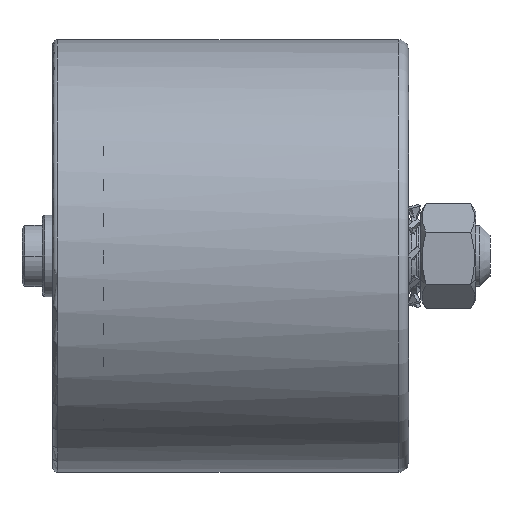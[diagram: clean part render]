
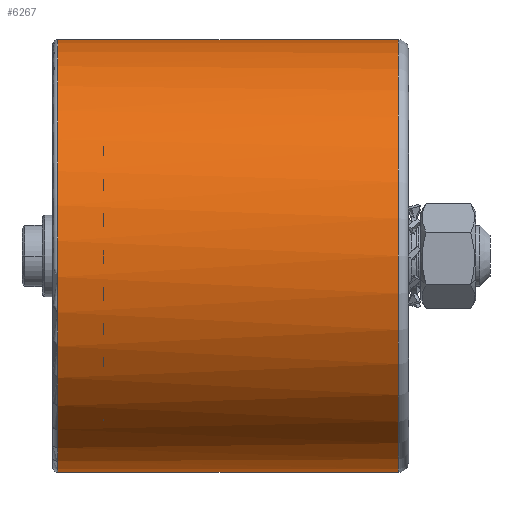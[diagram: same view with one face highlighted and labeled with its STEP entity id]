
A CAD part, left-side view. The second image highlights one B-rep face of the part: STEP entity #6267.
In plain terms, the highlighted cylindrical face has radius 42.5 mm (diameter 85 mm), a partial arc.
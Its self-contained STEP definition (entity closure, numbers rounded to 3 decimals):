
#55 = DIRECTION ( 'NONE',  ( 0.596, 0., 0.803 ) ) ;
#187 = EDGE_LOOP ( 'NONE', ( #5750, #3903, #7145, #4856, #8658 ) ) ;
#352 = VERTEX_POINT ( 'NONE', #8181 ) ;
#542 = DIRECTION ( 'NONE',  ( 0., 0., -1. ) ) ;
#721 = DIRECTION ( 'NONE',  ( 0., -1., 0. ) ) ;
#1136 = DIRECTION ( 'NONE',  ( 0., -1., 0. ) ) ;
#1195 = CYLINDRICAL_SURFACE ( 'NONE', #6339, 42.5 ) ;
#1208 = EDGE_CURVE ( 'NONE', #352, #7428, #3937, .T. ) ;
#1271 = CARTESIAN_POINT ( 'NONE',  ( 0., 2., 42.5 ) ) ;
#1697 = CIRCLE ( 'NONE', #2153, 42.5 ) ;
#1869 = AXIS2_PLACEMENT_3D ( 'NONE', #3042, #721, #55 ) ;
#1918 = CARTESIAN_POINT ( 'NONE',  ( 0., 0., 42.5 ) ) ;
#1998 = DIRECTION ( 'NONE',  ( 0.596, 0., 0.803 ) ) ;
#2153 = AXIS2_PLACEMENT_3D ( 'NONE', #9449, #5786, #5138 ) ;
#2546 = CARTESIAN_POINT ( 'NONE',  ( 0., 0., -42.5 ) ) ;
#3042 = CARTESIAN_POINT ( 'NONE',  ( 0., 69., 0. ) ) ;
#3290 = LINE ( 'NONE', #2546, #5995 ) ;
#3903 = ORIENTED_EDGE ( 'NONE', *, *, #5130, .T. ) ;
#3937 = CIRCLE ( 'NONE', #1869, 42.5 ) ;
#4250 = FACE_OUTER_BOUND ( 'NONE', #187, .T. ) ;
#4342 = DIRECTION ( 'NONE',  ( 0., -1., 0. ) ) ;
#4810 = EDGE_CURVE ( 'NONE', #5477, #9709, #1697, .T. ) ;
#4856 = ORIENTED_EDGE ( 'NONE', *, *, #5659, .T. ) ;
#5130 = EDGE_CURVE ( 'NONE', #6763, #352, #5499, .T. ) ;
#5135 = CARTESIAN_POINT ( 'NONE',  ( 0., 2., -42.5 ) ) ;
#5138 = DIRECTION ( 'NONE',  ( 0., 0., -1. ) ) ;
#5477 = VERTEX_POINT ( 'NONE', #5135 ) ;
#5499 = CIRCLE ( 'NONE', #5814, 42.5 ) ;
#5659 = EDGE_CURVE ( 'NONE', #7428, #5477, #3290, .T. ) ;
#5742 = DIRECTION ( 'NONE',  ( 0., -1., 0. ) ) ;
#5750 = ORIENTED_EDGE ( 'NONE', *, *, #8436, .F. ) ;
#5772 = CARTESIAN_POINT ( 'NONE',  ( 0., 69., 0. ) ) ;
#5786 = DIRECTION ( 'NONE',  ( 0., 1., 0. ) ) ;
#5814 = AXIS2_PLACEMENT_3D ( 'NONE', #5772, #1136, #1998 ) ;
#5995 = VECTOR ( 'NONE', #7228, 1000. ) ;
#6267 = ADVANCED_FACE ( 'NONE', ( #4250 ), #1195, .T. ) ;
#6339 = AXIS2_PLACEMENT_3D ( 'NONE', #6528, #5742, #542 ) ;
#6528 = CARTESIAN_POINT ( 'NONE',  ( 0., 0., 0. ) ) ;
#6763 = VERTEX_POINT ( 'NONE', #9173 ) ;
#6887 = VECTOR ( 'NONE', #4342, 1000. ) ;
#7145 = ORIENTED_EDGE ( 'NONE', *, *, #1208, .T. ) ;
#7228 = DIRECTION ( 'NONE',  ( 0., -1., 0. ) ) ;
#7428 = VERTEX_POINT ( 'NONE', #9154 ) ;
#8181 = CARTESIAN_POINT ( 'NONE',  ( -25.343, 69., -34.117 ) ) ;
#8436 = EDGE_CURVE ( 'NONE', #6763, #9709, #9535, .T. ) ;
#8658 = ORIENTED_EDGE ( 'NONE', *, *, #4810, .T. ) ;
#9154 = CARTESIAN_POINT ( 'NONE',  ( 0., 69., -42.5 ) ) ;
#9173 = CARTESIAN_POINT ( 'NONE',  ( 0., 69., 42.5 ) ) ;
#9449 = CARTESIAN_POINT ( 'NONE',  ( 0., 2., 0. ) ) ;
#9535 = LINE ( 'NONE', #1918, #6887 ) ;
#9709 = VERTEX_POINT ( 'NONE', #1271 ) ;
